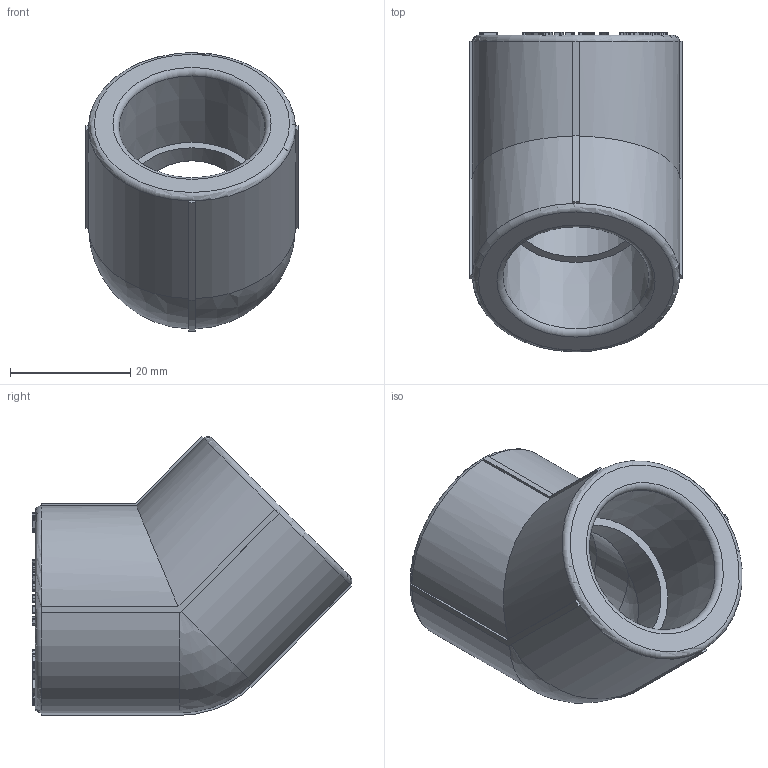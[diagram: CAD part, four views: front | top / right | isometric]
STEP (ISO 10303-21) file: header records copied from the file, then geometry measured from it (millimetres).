
FILE_DESCRIPTION(('STEP AP203'), '1');
FILE_NAME('ÂÐ.752216.010 - VTp.759.0.025', '', ('UNSPECIFIED'), ('UNSPECIFIED'), 'C3D Converter', 'C3D Toolkit', '');
FILE_SCHEMA(('CONFIG_CONTROL_DESIGN'));
Length unit declared in the file: millimetre
Products named in the file (1): ВР.752216.010
Bounding box: 35.3 x 53.25 x 46.4 mm (x, y, z)
Volume: 24110.2 mm3; surface area: 9907.8 mm2
Topology: 1 solids, 1 shells, 577 faces, 1612 edges, 1066 vertices
Faces by surface type: extrusion 320, plane 237, cylinder 11, torus 4, sphere 3, cone 2
Full cylindrical faces by diameter (mm): 21.5 x2
Entity records: 18774 total; most frequent: CARTESIAN_POINT 5178, ORIENTED_EDGE 3204, DIRECTION 1836, EDGE_CURVE 1602, VECTOR 1236, VERTEX_POINT 1066, B_SPLINE_CURVE_WITH_KNOTS 960, LINE 916
